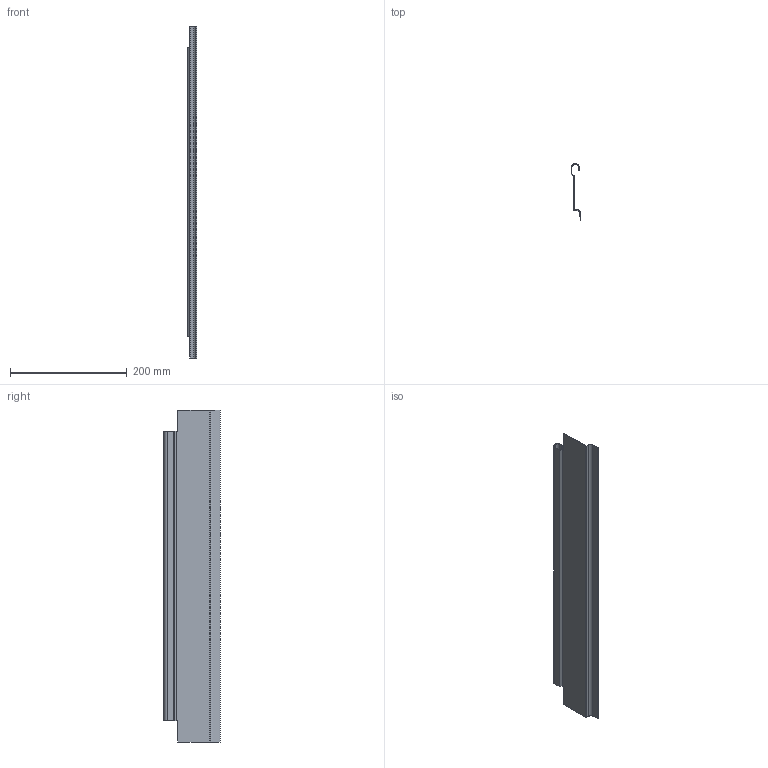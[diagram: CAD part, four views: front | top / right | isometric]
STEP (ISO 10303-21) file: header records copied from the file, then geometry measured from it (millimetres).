
FILE_DESCRIPTION (( 'STEP AP214' ), '1' );
FILE_NAME ('_Solowing NL600.step', '2010-07-14T13:31:58', ( 'grass' ), ( '' ), 'SwSTEP 2.0', 'SolidWorks 2010', '' );
FILE_SCHEMA (( 'AUTOMOTIVE_DESIGN' ));
Length unit declared in the file: millimetre
Products named in the file (1): _Solowing NL600
Bounding box: 16.3 x 96 x 568 mm (x, y, z)
Volume: 53717.9 mm3; surface area: 135401.7 mm2
Topology: 1 solids, 1 shells, 46 faces, 108 edges, 64 vertices
Faces by surface type: plane 36, cylinder 10
Entity records: 1314 total; most frequent: DIRECTION 222, CARTESIAN_POINT 219, ORIENTED_EDGE 216, EDGE_CURVE 108, LINE 88, VECTOR 88, AXIS2_PLACEMENT_3D 67, VERTEX_POINT 64
